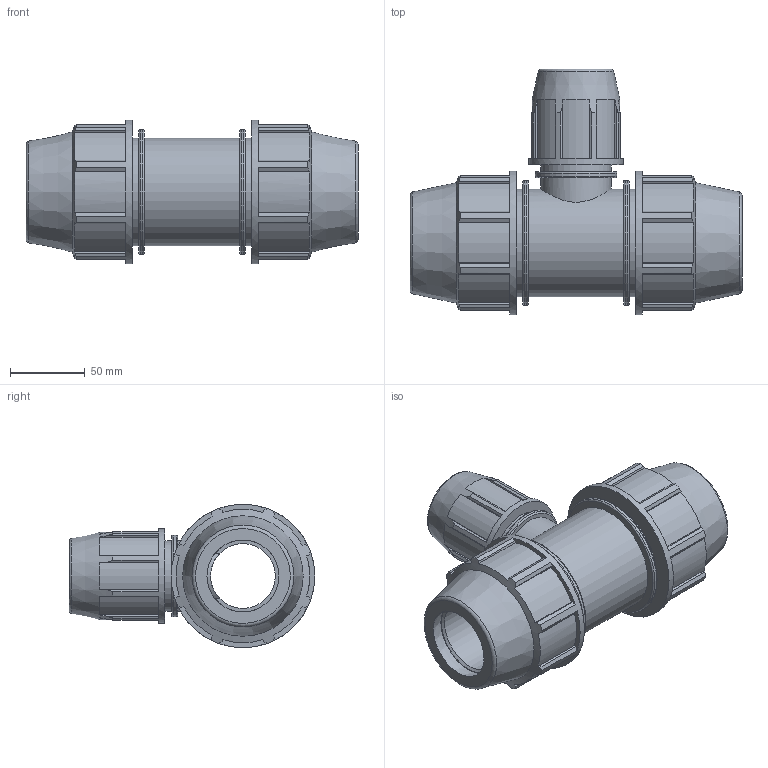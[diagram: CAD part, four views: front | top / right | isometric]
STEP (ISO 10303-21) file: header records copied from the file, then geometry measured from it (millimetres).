
FILE_DESCRIPTION(/* description */ ('PLASSON REDUCING TEE 1 1/2'''' - 1'''' - 1 1/2'''''),/* implementation_level */ '2;1');
FILE_NAME(/* name */ 'C:\Dropbox\KIMPROJECTS-Inventor 2019\99-16-3568-Processing Inch\ASTM Compression 2021\0734M0\0734M0015010.ipt.stp',/* time_stamp */ '2021-08-26T12:33:59+03:00',/* author */ ('Кирилл'),/* organization */ (''),/* preprocessor_version */ 'ST-DEVELOPER v17.2',/* originating_system */ 'Autodesk Inventor 2019',/* authorisation */ '');
FILE_SCHEMA (('AUTOMOTIVE_DESIGN { 1 0 10303 214 3 1 1 }'));
Length unit declared in the file: inch
Products named in the file (1): 0734M0015010
Bounding box: 222 x 164.08 x 96.01 mm (x, y, z)
Volume: 852808.9 mm3; surface area: 138063.3 mm2
Topology: 1 solids, 1 shells, 208 faces, 617 edges, 424 vertices
Faces by surface type: plane 138, cylinder 42, cone 19, torus 9
Full cylindrical faces by diameter (mm): 29.97 x1, 33.3 x1, 43.29 x1, 47.244 x2, 48.1 x2, 54.803 x1, 62.992 x1, 72.009 x3, 83.53 x2, 96.012 x2
Entity records: 7463 total; most frequent: CARTESIAN_POINT 1565, ORIENTED_EDGE 1234, DIRECTION 1182, EDGE_CURVE 617, AXIS2_PLACEMENT_3D 431, VERTEX_POINT 424, LINE 320, VECTOR 320
